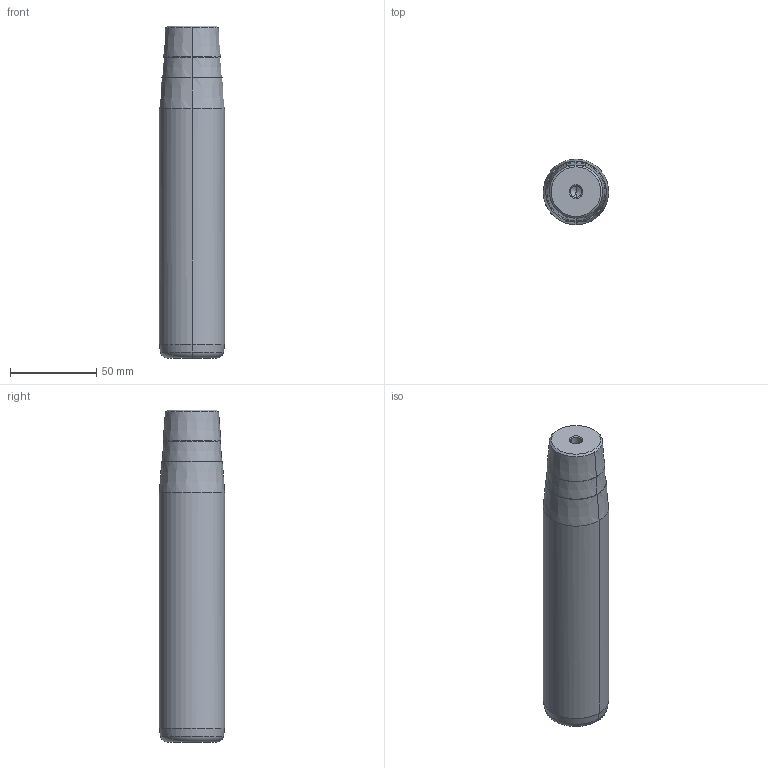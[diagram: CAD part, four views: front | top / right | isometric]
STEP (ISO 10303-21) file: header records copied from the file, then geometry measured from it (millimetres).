
FILE_DESCRIPTION(('CATIA V5 STEP Exchange'),'2;1');
FILE_NAME('C:\Users\Utente\Desktop\IO LAVORO\3D X SITO CF\X SITO\722\722-38x160x193.stp','2021-01-08T16:05:00+00:00',('none'),('none'),'CATIA Version 5 Release 20 GA (IN-10)','CATIA V5 STEP AP203','none');
FILE_SCHEMA(('CONFIG_CONTROL_DESIGN'));
Length unit declared in the file: millimetre
Products named in the file (1): 722-38x160x193
Bounding box: 38 x 38 x 193 mm (x, y, z)
Volume: 206136 mm3; surface area: 25167.9 mm2
Topology: 1 solids, 1 shells, 32 faces, 98 edges, 66 vertices
Faces by surface type: cone 22, cylinder 6, plane 2, torus 2
Entity records: 1166 total; most frequent: CARTESIAN_POINT 279, ORIENTED_EDGE 188, DIRECTION 148, EDGE_CURVE 94, AXIS2_PLACEMENT_3D 89, VERTEX_POINT 66, CIRCLE 56, EDGE_LOOP 34
